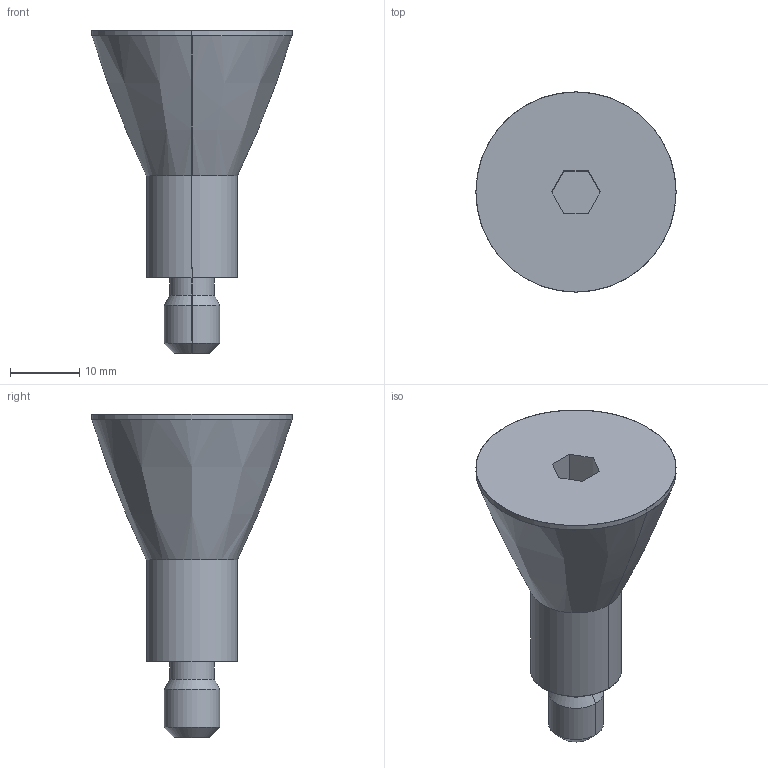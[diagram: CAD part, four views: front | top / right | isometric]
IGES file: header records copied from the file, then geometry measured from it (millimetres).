
Start section: SolidWorks IGES file using analytic representation for surfaces
Global section: file name: X:\14_SW2023(ver2023)\09_2025-03新製品(WHS)\AMS\@データ\amwfh105-120ib\AMWFH105-120IB.igs; native system: SolidWorks 2023; preprocessor: SolidWorks 2023; author: ImaoCorp; date: 241210.110912; units: millimetre
Bounding box: 29 x 29 x 46.9 mm (x, y, z)
Surface area: 3326.5 mm2 (no closed solid volume)
Topology: 0 solids, 0 shells, 24 faces, 252 edges, 252 vertices
Faces by surface type: revolution 12, bspline 12
